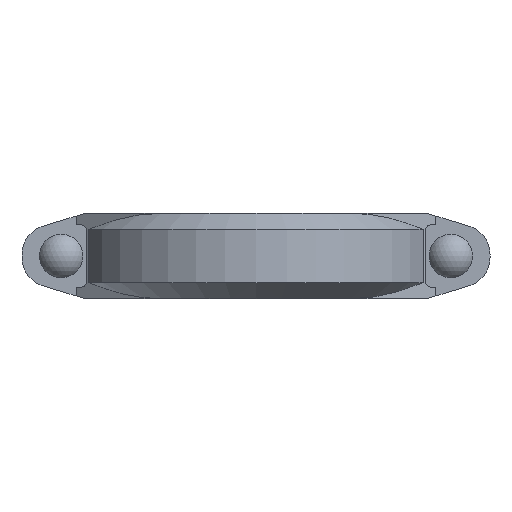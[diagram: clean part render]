
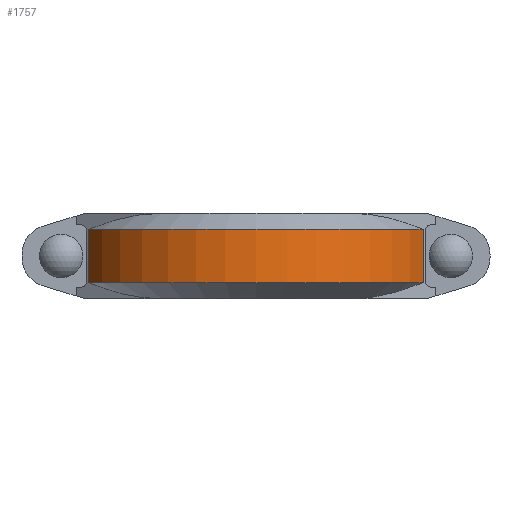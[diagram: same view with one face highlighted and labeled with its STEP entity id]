
A CAD part, front view. The second image highlights one B-rep face of the part: STEP entity #1757.
In plain terms, the highlighted cylindrical face has radius 133.858 mm (diameter 267.716 mm), a partial arc.
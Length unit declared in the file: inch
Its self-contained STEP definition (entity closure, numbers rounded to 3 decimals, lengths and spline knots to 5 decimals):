
#194=FACE_OUTER_BOUND('',#290,.T.);
#290=EDGE_LOOP('',(#1431,#1432,#1433,#1434));
#371=LINE('',#2644,#528);
#439=LINE('',#2846,#596);
#528=VECTOR('',#2130,0.3937);
#596=VECTOR('',#2292,0.3937);
#679=CIRCLE('',#1914,5.27);
#683=CIRCLE('',#1921,5.27);
#756=VERTEX_POINT('',#2639);
#757=VERTEX_POINT('',#2643);
#825=VERTEX_POINT('',#2841);
#826=VERTEX_POINT('',#2845);
#937=EDGE_CURVE('',#757,#756,#371,.T.);
#1032=EDGE_CURVE('',#826,#825,#439,.T.);
#1047=EDGE_CURVE('',#756,#826,#679,.T.);
#1054=EDGE_CURVE('',#757,#825,#683,.T.);
#1431=ORIENTED_EDGE('',*,*,#937,.T.);
#1432=ORIENTED_EDGE('',*,*,#1047,.T.);
#1433=ORIENTED_EDGE('',*,*,#1032,.T.);
#1434=ORIENTED_EDGE('',*,*,#1054,.F.);
#1597=CYLINDRICAL_SURFACE('',#1920,5.27);
#1757=ADVANCED_FACE('',(#194),#1597,.T.);
#1914=AXIS2_PLACEMENT_3D('',#2876,#2319,#2320);
#1920=AXIS2_PLACEMENT_3D('',#2889,#2334,#2335);
#1921=AXIS2_PLACEMENT_3D('',#2890,#2336,#2337);
#2130=DIRECTION('',(0.,0.,1.));
#2292=DIRECTION('',(0.,0.,-1.));
#2319=DIRECTION('center_axis',(0.,0.,-1.));
#2320=DIRECTION('ref_axis',(0.,-1.,0.));
#2334=DIRECTION('center_axis',(0.,0.,-1.));
#2335=DIRECTION('ref_axis',(0.,-1.,0.));
#2336=DIRECTION('center_axis',(0.,0.,-1.));
#2337=DIRECTION('ref_axis',(0.,-1.,0.));
#2639=CARTESIAN_POINT('',(4.9079,-1.91974,0.78));
#2643=CARTESIAN_POINT('',(4.9079,-1.91974,-0.78));
#2644=CARTESIAN_POINT('',(4.9079,-1.91974,0.));
#2841=CARTESIAN_POINT('',(-4.9079,-1.91974,-0.78));
#2845=CARTESIAN_POINT('',(-4.9079,-1.91974,0.78));
#2846=CARTESIAN_POINT('',(-4.9079,-1.91974,0.));
#2876=CARTESIAN_POINT('Origin',(0.,0.,0.78));
#2889=CARTESIAN_POINT('Origin',(0.,0.,0.));
#2890=CARTESIAN_POINT('Origin',(0.,0.,-0.78));
